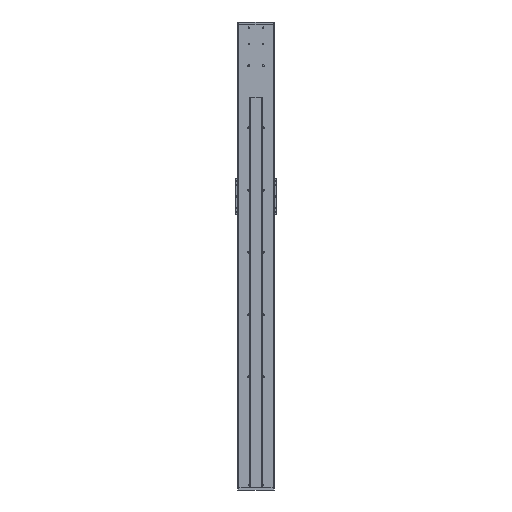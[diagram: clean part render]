
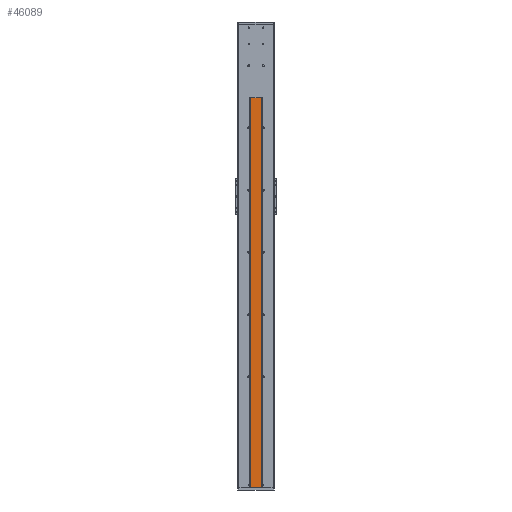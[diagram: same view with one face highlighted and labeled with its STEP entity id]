
A CAD part, front view. The second image highlights one B-rep face of the part: STEP entity #46089.
In plain terms, the highlighted planar face has unit normal (0, -1, 0).
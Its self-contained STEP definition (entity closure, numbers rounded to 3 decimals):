
#325 = CARTESIAN_POINT ( 'NONE',  ( 1.27, -85.314, 355. ) ) ;
#622 = VECTOR ( 'NONE', #22774, 1000. ) ;
#3511 = CARTESIAN_POINT ( 'NONE',  ( 58.27, -85.314, 2235. ) ) ;
#3936 = VECTOR ( 'NONE', #22531, 1000. ) ;
#4489 = ORIENTED_EDGE ( 'NONE', *, *, #19892, .F. ) ;
#4821 = CARTESIAN_POINT ( 'NONE',  ( 1.27, -85.314, 355. ) ) ;
#6710 = DIRECTION ( 'NONE',  ( -1., 0., 0. ) ) ;
#7052 = VERTEX_POINT ( 'NONE', #33279 ) ;
#7102 = EDGE_CURVE ( 'NONE', #35466, #22572, #10132, .T. ) ;
#7468 = DIRECTION ( 'NONE',  ( 0., 1., 0. ) ) ;
#7586 = VECTOR ( 'NONE', #40753, 1000. ) ;
#8566 = AXIS2_PLACEMENT_3D ( 'NONE', #25081, #7468, #32441 ) ;
#10132 = LINE ( 'NONE', #4821, #622 ) ;
#15817 = CARTESIAN_POINT ( 'NONE',  ( 1.27, -85.314, 355. ) ) ;
#17039 = CARTESIAN_POINT ( 'NONE',  ( 58.27, -85.314, 355. ) ) ;
#17127 = LINE ( 'NONE', #15817, #7586 ) ;
#18124 = PLANE ( 'NONE',  #8566 ) ;
#19379 = ORIENTED_EDGE ( 'NONE', *, *, #22391, .T. ) ;
#19423 = VECTOR ( 'NONE', #6710, 1000. ) ;
#19892 = EDGE_CURVE ( 'NONE', #22572, #7052, #17127, .T. ) ;
#20958 = FACE_OUTER_BOUND ( 'NONE', #43711, .T. ) ;
#22391 = EDGE_CURVE ( 'NONE', #29735, #7052, #36181, .T. ) ;
#22531 = DIRECTION ( 'NONE',  ( 0., 0., 1. ) ) ;
#22572 = VERTEX_POINT ( 'NONE', #325 ) ;
#22774 = DIRECTION ( 'NONE',  ( -1., 0., 0. ) ) ;
#23608 = ORIENTED_EDGE ( 'NONE', *, *, #40675, .T. ) ;
#25081 = CARTESIAN_POINT ( 'NONE',  ( 1.27, -85.314, 355. ) ) ;
#27957 = CARTESIAN_POINT ( 'NONE',  ( 1.27, -85.314, 2235. ) ) ;
#29732 = CARTESIAN_POINT ( 'NONE',  ( 58.27, -85.314, 355. ) ) ;
#29735 = VERTEX_POINT ( 'NONE', #3511 ) ;
#32441 = DIRECTION ( 'NONE',  ( 0., 0., 1. ) ) ;
#33279 = CARTESIAN_POINT ( 'NONE',  ( 1.27, -85.314, 2235. ) ) ;
#35466 = VERTEX_POINT ( 'NONE', #17039 ) ;
#36181 = LINE ( 'NONE', #27957, #19423 ) ;
#40675 = EDGE_CURVE ( 'NONE', #35466, #29735, #41943, .T. ) ;
#40753 = DIRECTION ( 'NONE',  ( 0., 0., 1. ) ) ;
#41943 = LINE ( 'NONE', #29732, #3936 ) ;
#43064 = ORIENTED_EDGE ( 'NONE', *, *, #7102, .F. ) ;
#43711 = EDGE_LOOP ( 'NONE', ( #19379, #4489, #43064, #23608 ) ) ;
#46089 = ADVANCED_FACE ( 'NONE', ( #20958 ), #18124, .F. ) ;
